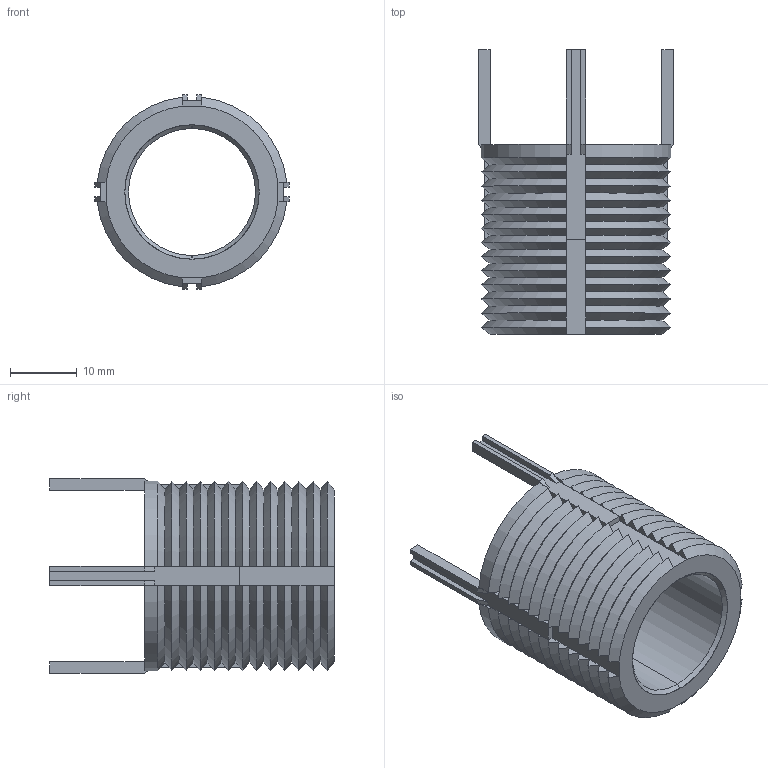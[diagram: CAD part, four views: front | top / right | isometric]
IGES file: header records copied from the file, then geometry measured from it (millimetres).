
Start section: SolidWorks IGES file using analytic representation for surfaces
Global section: file name: C:\Users\IanO\Desktop\TR1575\TR1575_v2_20230420_IGES\TR1575.66109.igs; native system: SolidWorks 2019; preprocessor: SolidWorks 2019; author: IanO; date: 230420.093510; units: inch
Bounding box: 29.16 x 42.67 x 29.16 mm (x, y, z)
Surface area: 7101.9 mm2 (no closed solid volume)
Topology: 0 solids, 0 shells, 268 faces, 1256 edges, 1256 vertices
Faces by surface type: bspline 158, revolution 110
